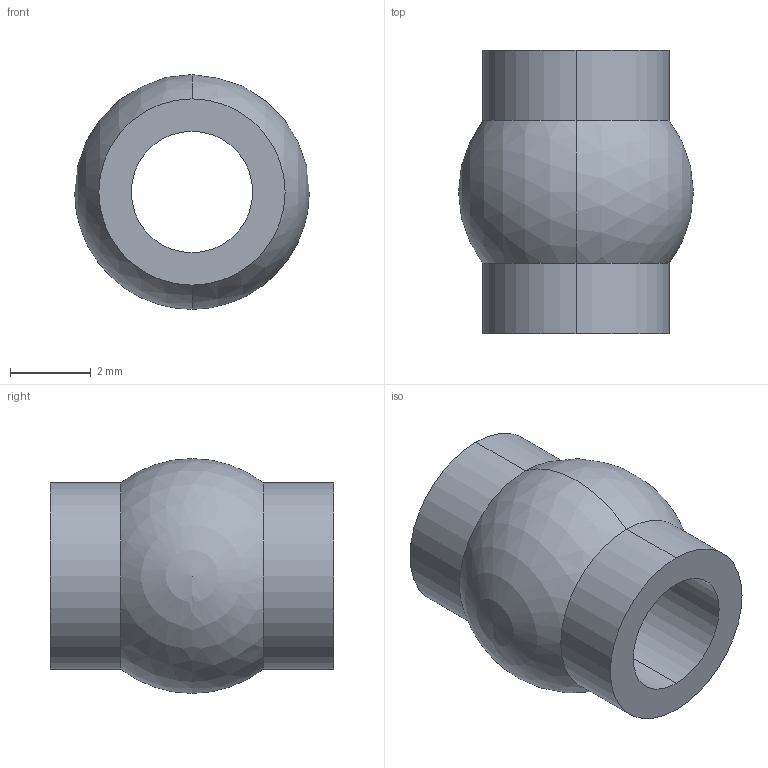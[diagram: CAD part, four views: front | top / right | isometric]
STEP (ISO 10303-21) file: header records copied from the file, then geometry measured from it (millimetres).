
FILE_DESCRIPTION (( 'STEP AP214' ), '1' );
FILE_NAME ('Ì44_ÏÌ_Øàðîâàÿ Àìîðòèçàòîðà Ä5.8.STEP', '2019-03-21T14:02:18', ( '' ), ( '' ), 'SwSTEP 2.0', 'SolidWorks 2018', '' );
FILE_SCHEMA (( 'AUTOMOTIVE_DESIGN' ));
Length unit declared in the file: millimetre
Products named in the file (1): Ì44_ÏÌ_Øàðîâàÿ Àìîðòèçàòîðà Ä5.8
Bounding box: 5.8 x 7 x 5.8 mm (x, y, z)
Volume: 89.9 mm3; surface area: 199.6 mm2
Topology: 1 solids, 1 shells, 10 faces, 25 edges, 15 vertices
Faces by surface type: cylinder 6, sphere 2, plane 2
Entity records: 304 total; most frequent: DIRECTION 56, CARTESIAN_POINT 43, ORIENTED_EDGE 40, AXIS2_PLACEMENT_3D 25, EDGE_CURVE 20, CIRCLE 14, EDGE_LOOP 12, VERTEX_POINT 12
